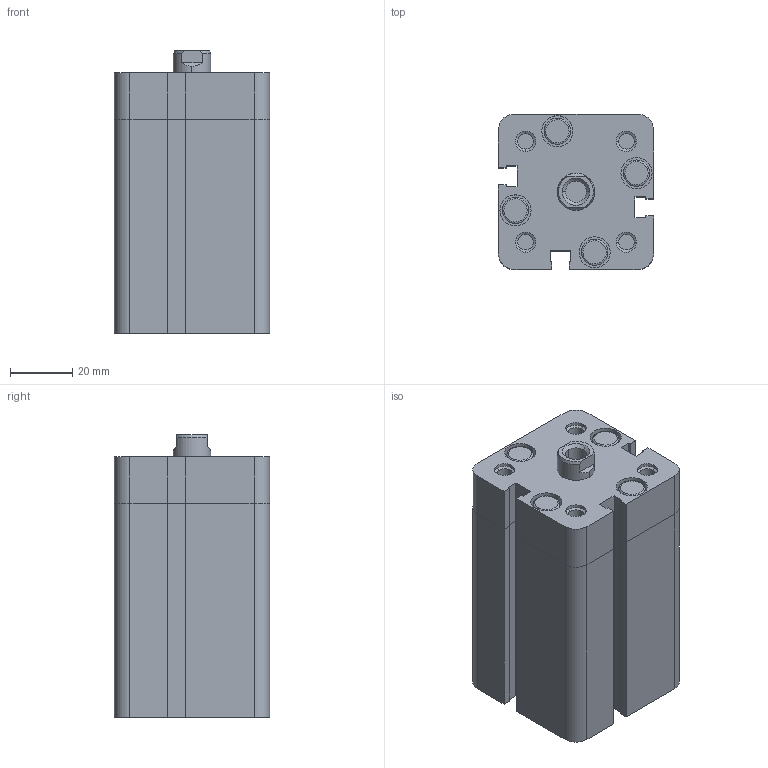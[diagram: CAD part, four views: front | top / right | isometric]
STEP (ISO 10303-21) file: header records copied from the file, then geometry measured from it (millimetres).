
FILE_DESCRIPTION (( 'STEP AP214' ), '1' );
FILE_NAME ('WINC-032-0040 (MDMY).STEP', '2017-12-21T11:45:26', ( 'Hidtek' ), ( '' ), 'SwSTEP 2.0', 'SolidWorks 2016', '' );
FILE_SCHEMA (( 'AUTOMOTIVE_DESIGN' ));
Length unit declared in the file: millimetre
Products named in the file (3): WINC-032-0040 (MDMY); Group2^WINC-032-0040 (MDMY); Group1^WINC-032-0040 (MDMY)
Assembly tree (2 placements, depth 2):
  WINC-032-0040 (MDMY)
    Group1^WINC-032-0040 (MDMY)
    Group2^WINC-032-0040 (MDMY)
Bounding box: 50 x 50 x 91.15 mm (x, y, z)
Surface area: 80632.7 mm2
Topology: 14 solids, 16 shells, 594 faces, 1478 edges, 962 vertices
Faces by surface type: plane 348, cylinder 128, cone 78, bspline 40
Entity records: 20266 total; most frequent: CARTESIAN_POINT 4227, ORIENTED_EDGE 2948, DIRECTION 2884, EDGE_CURVE 1474, LINE 1022, VECTOR 1022, VERTEX_POINT 962, AXIS2_PLACEMENT_3D 931
